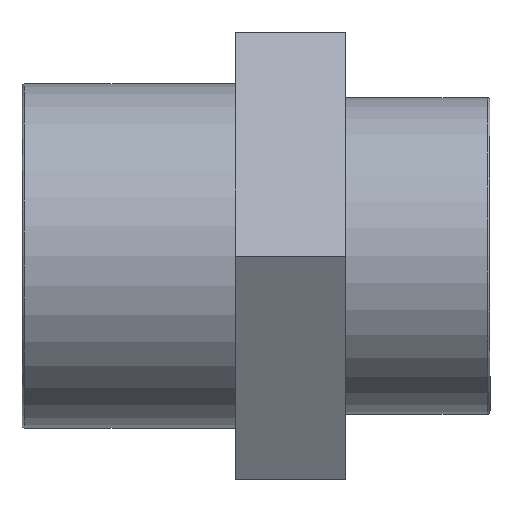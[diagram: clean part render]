
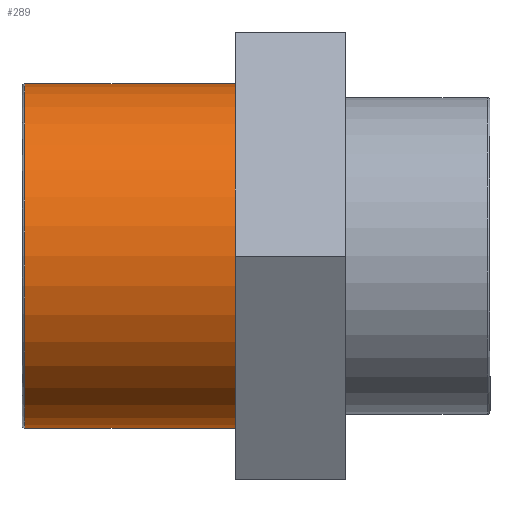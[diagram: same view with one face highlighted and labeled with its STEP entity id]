
A CAD part, top view. The second image highlights one B-rep face of the part: STEP entity #289.
In plain terms, the highlighted cylindrical face has radius 25 mm (diameter 50 mm), a full revolution.
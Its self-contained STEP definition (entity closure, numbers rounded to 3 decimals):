
#54=CYLINDRICAL_SURFACE('',#323,25.);
#77=FACE_BOUND('',#123,.T.);
#92=FACE_OUTER_BOUND('',#122,.T.);
#122=EDGE_LOOP('',(#230));
#123=EDGE_LOOP('',(#231));
#150=CIRCLE('',#322,25.);
#151=CIRCLE('',#324,25.);
#164=VERTEX_POINT('',#458);
#165=VERTEX_POINT('',#461);
#190=EDGE_CURVE('',#164,#164,#150,.T.);
#191=EDGE_CURVE('',#165,#165,#151,.T.);
#230=ORIENTED_EDGE('',*,*,#191,.T.);
#231=ORIENTED_EDGE('',*,*,#190,.F.);
#289=ADVANCED_FACE('',(#92,#77),#54,.T.);
#322=AXIS2_PLACEMENT_3D('',#459,#378,#379);
#323=AXIS2_PLACEMENT_3D('',#460,#380,#381);
#324=AXIS2_PLACEMENT_3D('',#462,#382,#383);
#378=DIRECTION('center_axis',(-1.,0.,0.));
#379=DIRECTION('ref_axis',(0.,1.,0.));
#380=DIRECTION('center_axis',(-1.,0.,0.));
#381=DIRECTION('ref_axis',(0.,-1.,0.));
#382=DIRECTION('center_axis',(-1.,0.,0.));
#383=DIRECTION('ref_axis',(0.,0.,1.));
#458=CARTESIAN_POINT('',(-33.6,-25.,0.));
#459=CARTESIAN_POINT('Origin',(-33.6,0.,0.));
#460=CARTESIAN_POINT('Origin',(-18.5,0.,0.));
#461=CARTESIAN_POINT('',(-3.,-25.,0.));
#462=CARTESIAN_POINT('Origin',(-3.,0.,0.));
